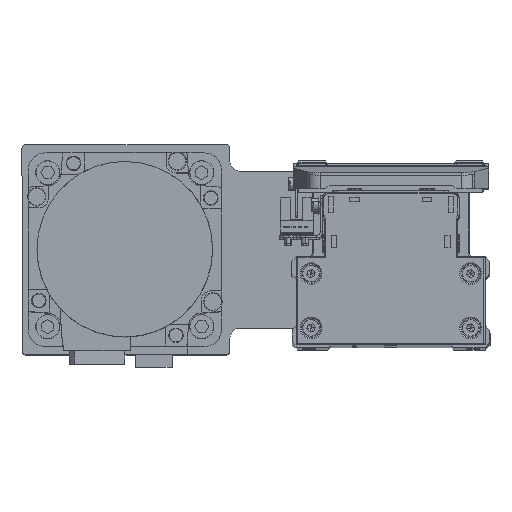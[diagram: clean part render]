
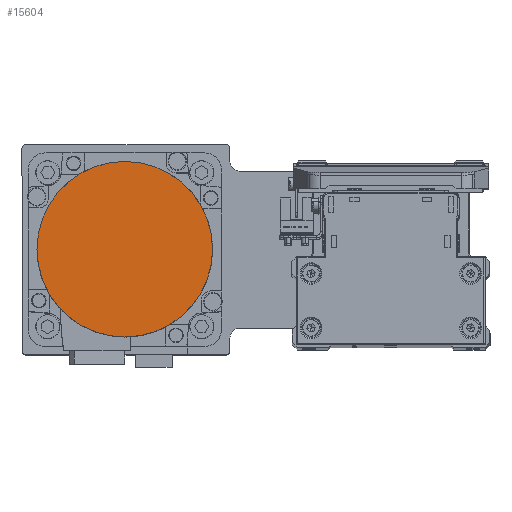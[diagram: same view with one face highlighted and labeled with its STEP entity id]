
A CAD part, top view. The second image highlights one B-rep face of the part: STEP entity #15604.
In plain terms, the highlighted planar face has unit normal (0, 0, 1) as drawn and (0, 0, -1) by its records, which use the part's own axes.
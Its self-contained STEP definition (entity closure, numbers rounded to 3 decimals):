
#1402 = CARTESIAN_POINT ( 'NONE',  ( 0., 0., -122.2 ) ) ;
#2165 = AXIS2_PLACEMENT_3D ( 'NONE', #1402, #13600, #25778 ) ;
#4209 = ORIENTED_EDGE ( 'NONE', *, *, #38910, .F. ) ;
#4688 = VERTEX_POINT ( 'NONE', #15422 ) ;
#5601 = CIRCLE ( 'NONE', #27951, 36.3 ) ;
#11607 = DIRECTION ( 'NONE',  ( 0., 0., 1. ) ) ;
#11614 = EDGE_CURVE ( 'NONE', #20404, #4688, #19439, .T. ) ;
#11999 = DIRECTION ( 'NONE',  ( 0., 0., 1. ) ) ;
#13600 = DIRECTION ( 'NONE',  ( 0., 0., 1. ) ) ;
#14984 = FACE_OUTER_BOUND ( 'NONE', #28985, .T. ) ;
#15422 = CARTESIAN_POINT ( 'NONE',  ( 0., -36.3, -122.2 ) ) ;
#15604 = ADVANCED_FACE ( 'NONE', ( #14984 ), #27167, .F. ) ;
#17065 = ORIENTED_EDGE ( 'NONE', *, *, #11614, .F. ) ;
#19439 = CIRCLE ( 'NONE', #2165, 36.3 ) ;
#20404 = VERTEX_POINT ( 'NONE', #32928 ) ;
#23793 = DIRECTION ( 'NONE',  ( 0., -1., 0. ) ) ;
#24184 = DIRECTION ( 'NONE',  ( 1., 0., 0. ) ) ;
#25778 = DIRECTION ( 'NONE',  ( 0., 1., 0. ) ) ;
#27167 = PLANE ( 'NONE',  #27342 ) ;
#27342 = AXIS2_PLACEMENT_3D ( 'NONE', #39362, #11999, #24184 ) ;
#27951 = AXIS2_PLACEMENT_3D ( 'NONE', #38979, #11607, #23793 ) ;
#28985 = EDGE_LOOP ( 'NONE', ( #17065, #4209 ) ) ;
#32928 = CARTESIAN_POINT ( 'NONE',  ( 0., 36.3, -122.2 ) ) ;
#38910 = EDGE_CURVE ( 'NONE', #4688, #20404, #5601, .T. ) ;
#38979 = CARTESIAN_POINT ( 'NONE',  ( 0., 0., -122.2 ) ) ;
#39362 = CARTESIAN_POINT ( 'NONE',  ( 0., 0., -122.2 ) ) ;
